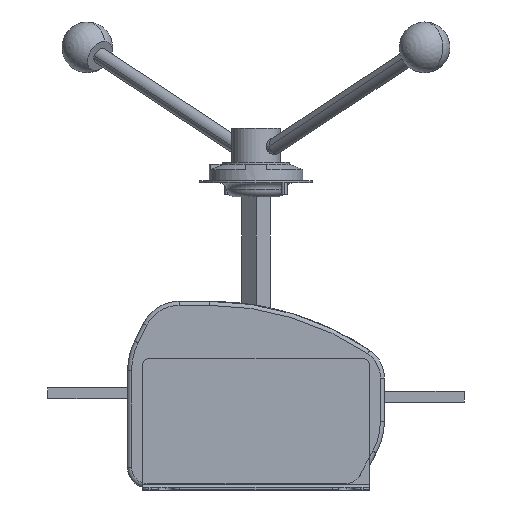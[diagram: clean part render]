
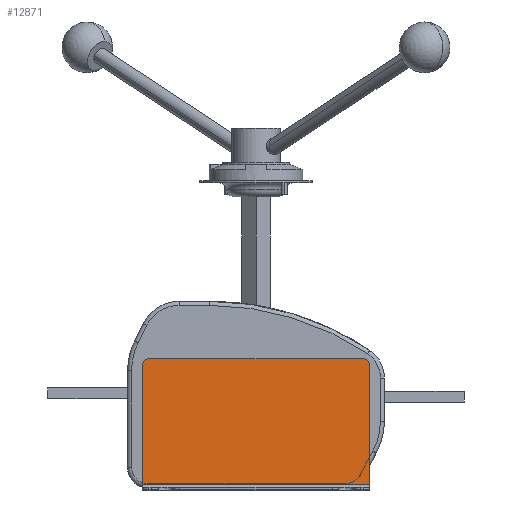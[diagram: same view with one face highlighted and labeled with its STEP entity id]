
A CAD part, left-side view. The second image highlights one B-rep face of the part: STEP entity #12871.
In plain terms, the highlighted planar face has unit normal (-1, 0, 0).
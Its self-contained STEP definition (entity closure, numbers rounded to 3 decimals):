
#1137 = VERTEX_POINT ( 'NONE', #5181 ) ;
#1880 = ORIENTED_EDGE ( 'NONE', *, *, #6132, .T. ) ;
#2150 = DIRECTION ( 'NONE',  ( 0., 0., 1. ) ) ;
#2161 = LINE ( 'NONE', #9808, #8554 ) ;
#2371 = AXIS2_PLACEMENT_3D ( 'NONE', #6931, #5856, #6983 ) ;
#2772 = EDGE_CURVE ( 'NONE', #15498, #6976, #2161, .T. ) ;
#2847 = AXIS2_PLACEMENT_3D ( 'NONE', #13726, #14908, #10224 ) ;
#3075 = CARTESIAN_POINT ( 'NONE',  ( -366.42, -80., 22. ) ) ;
#3097 = EDGE_CURVE ( 'NONE', #10115, #5055, #12096, .T. ) ;
#3191 = EDGE_CURVE ( 'NONE', #5055, #1137, #11714, .T. ) ;
#3414 = CARTESIAN_POINT ( 'NONE',  ( -366.42, 85., -67. ) ) ;
#3460 = DIRECTION ( 'NONE',  ( 0., 0., 1. ) ) ;
#3496 = VECTOR ( 'NONE', #2150, 1000. ) ;
#3714 = CIRCLE ( 'NONE', #2847, 5. ) ;
#3810 = ORIENTED_EDGE ( 'NONE', *, *, #10626, .T. ) ;
#4318 = DIRECTION ( 'NONE',  ( 0., 1., 0. ) ) ;
#5055 = VERTEX_POINT ( 'NONE', #11906 ) ;
#5181 = CARTESIAN_POINT ( 'NONE',  ( -366.42, 85., 22. ) ) ;
#5577 = FACE_OUTER_BOUND ( 'NONE', #14981, .T. ) ;
#5856 = DIRECTION ( 'NONE',  ( -1., 0., 0. ) ) ;
#5936 = VECTOR ( 'NONE', #3460, 1000. ) ;
#6132 = EDGE_CURVE ( 'NONE', #6976, #1137, #3714, .T. ) ;
#6931 = CARTESIAN_POINT ( 'NONE',  ( -366.42, -85., -67. ) ) ;
#6976 = VERTEX_POINT ( 'NONE', #13112 ) ;
#6983 = DIRECTION ( 'NONE',  ( 0., 0., 1. ) ) ;
#7341 = DIRECTION ( 'NONE',  ( 0., 1., 0. ) ) ;
#7793 = VECTOR ( 'NONE', #4318, 1000. ) ;
#8076 = ORIENTED_EDGE ( 'NONE', *, *, #2772, .T. ) ;
#8209 = EDGE_CURVE ( 'NONE', #11319, #15498, #9806, .T. ) ;
#8528 = CARTESIAN_POINT ( 'NONE',  ( -366.42, -85., -67. ) ) ;
#8554 = VECTOR ( 'NONE', #7341, 1000. ) ;
#8966 = DIRECTION ( 'NONE',  ( 0., 0., 1. ) ) ;
#9065 = DIRECTION ( 'NONE',  ( -1., 0., 0. ) ) ;
#9682 = LINE ( 'NONE', #11955, #3496 ) ;
#9806 = CIRCLE ( 'NONE', #11730, 5. ) ;
#9808 = CARTESIAN_POINT ( 'NONE',  ( -366.42, -85., 27. ) ) ;
#10115 = VERTEX_POINT ( 'NONE', #8528 ) ;
#10224 = DIRECTION ( 'NONE',  ( 0., 0., 1. ) ) ;
#10478 = CARTESIAN_POINT ( 'NONE',  ( -366.42, -85., -67. ) ) ;
#10626 = EDGE_CURVE ( 'NONE', #10115, #11319, #9682, .T. ) ;
#10704 = PLANE ( 'NONE',  #2371 ) ;
#10882 = ORIENTED_EDGE ( 'NONE', *, *, #3191, .F. ) ;
#11200 = CARTESIAN_POINT ( 'NONE',  ( -366.42, -80., 27. ) ) ;
#11319 = VERTEX_POINT ( 'NONE', #14201 ) ;
#11714 = LINE ( 'NONE', #3414, #5936 ) ;
#11730 = AXIS2_PLACEMENT_3D ( 'NONE', #3075, #9065, #8966 ) ;
#11906 = CARTESIAN_POINT ( 'NONE',  ( -366.42, 85., -67. ) ) ;
#11955 = CARTESIAN_POINT ( 'NONE',  ( -366.42, -85., -67. ) ) ;
#12096 = LINE ( 'NONE', #10478, #7793 ) ;
#12871 = ADVANCED_FACE ( 'NONE', ( #5577 ), #10704, .T. ) ;
#13112 = CARTESIAN_POINT ( 'NONE',  ( -366.42, 80., 27. ) ) ;
#13442 = ORIENTED_EDGE ( 'NONE', *, *, #8209, .T. ) ;
#13726 = CARTESIAN_POINT ( 'NONE',  ( -366.42, 80., 22. ) ) ;
#14201 = CARTESIAN_POINT ( 'NONE',  ( -366.42, -85., 22. ) ) ;
#14908 = DIRECTION ( 'NONE',  ( -1., 0., 0. ) ) ;
#14915 = ORIENTED_EDGE ( 'NONE', *, *, #3097, .F. ) ;
#14981 = EDGE_LOOP ( 'NONE', ( #3810, #13442, #8076, #1880, #10882, #14915 ) ) ;
#15498 = VERTEX_POINT ( 'NONE', #11200 ) ;
